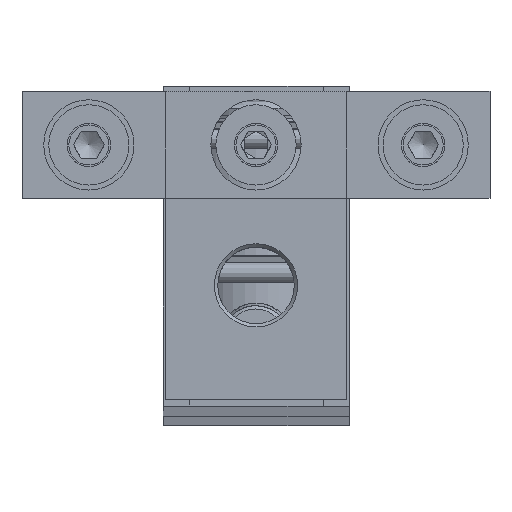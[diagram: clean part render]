
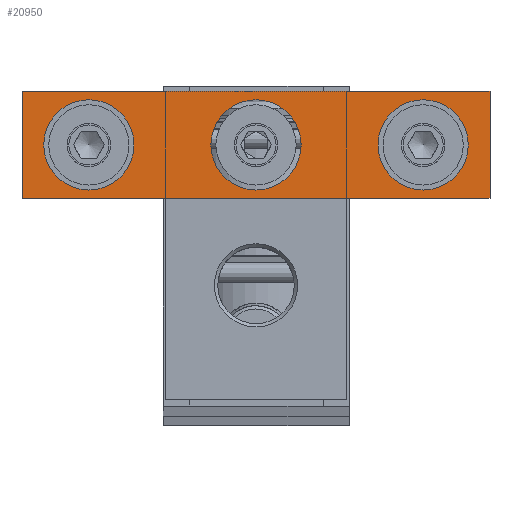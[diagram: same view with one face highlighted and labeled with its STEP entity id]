
A CAD part, top view. The second image highlights one B-rep face of the part: STEP entity #20950.
In plain terms, the highlighted planar face has unit normal (0, 0, 1).
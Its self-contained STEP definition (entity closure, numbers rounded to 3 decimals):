
#1397=LINE('',#40409,#2324);
#1430=LINE('',#40577,#2357);
#1433=LINE('',#40581,#2360);
#1435=LINE('',#40584,#2362);
#2324=VECTOR('',#28735,10.);
#2357=VECTOR('',#28906,10.);
#2360=VECTOR('',#28911,10.);
#2362=VECTOR('',#28915,10.);
#3207=FACE_BOUND('',#5437,.T.);
#3208=FACE_BOUND('',#5438,.T.);
#3209=FACE_BOUND('',#5439,.T.);
#4089=FACE_OUTER_BOUND('',#5436,.T.);
#5436=EDGE_LOOP('',(#17038,#17039,#17040,#17041));
#5437=EDGE_LOOP('',(#17042));
#5438=EDGE_LOOP('',(#17043));
#5439=EDGE_LOOP('',(#17044));
#7049=CIRCLE('',#23432,6.75);
#7051=CIRCLE('',#23436,6.75);
#7054=CIRCLE('',#23441,6.75);
#9045=VERTEX_POINT('',#40406);
#9046=VERTEX_POINT('',#40408);
#9089=VERTEX_POINT('',#40574);
#9090=VERTEX_POINT('',#40576);
#9093=VERTEX_POINT('',#40592);
#9095=VERTEX_POINT('',#40600);
#9098=VERTEX_POINT('',#40610);
#11788=EDGE_CURVE('',#9046,#9045,#1397,.T.);
#11863=EDGE_CURVE('',#9090,#9089,#1430,.T.);
#11866=EDGE_CURVE('',#9089,#9046,#1433,.T.);
#11868=EDGE_CURVE('',#9045,#9090,#1435,.T.);
#11872=EDGE_CURVE('',#9093,#9093,#7049,.T.);
#11876=EDGE_CURVE('',#9095,#9095,#7051,.T.);
#11881=EDGE_CURVE('',#9098,#9098,#7054,.T.);
#17038=ORIENTED_EDGE('',*,*,#11863,.T.);
#17039=ORIENTED_EDGE('',*,*,#11866,.T.);
#17040=ORIENTED_EDGE('',*,*,#11788,.T.);
#17041=ORIENTED_EDGE('',*,*,#11868,.T.);
#17042=ORIENTED_EDGE('',*,*,#11876,.F.);
#17043=ORIENTED_EDGE('',*,*,#11872,.F.);
#17044=ORIENTED_EDGE('',*,*,#11881,.F.);
#18832=PLANE('',#23440);
#20950=ADVANCED_FACE('',(#4089,#3207,#3208,#3209),#18832,.T.);
#23432=AXIS2_PLACEMENT_3D('',#40593,#28925,#28926);
#23436=AXIS2_PLACEMENT_3D('',#40601,#28935,#28936);
#23440=AXIS2_PLACEMENT_3D('',#40609,#28945,#28946);
#23441=AXIS2_PLACEMENT_3D('',#40611,#28947,#28948);
#28735=DIRECTION('',(-1.,0.,0.));
#28906=DIRECTION('',(1.,0.,0.));
#28911=DIRECTION('',(0.,1.,0.));
#28915=DIRECTION('',(0.,-1.,0.));
#28925=DIRECTION('center_axis',(0.,0.,
1.));
#28926=DIRECTION('ref_axis',(-1.,0.,0.));
#28935=DIRECTION('center_axis',(0.,0.,
1.));
#28936=DIRECTION('ref_axis',(-1.,0.,0.));
#28945=DIRECTION('center_axis',(0.,0.,
1.));
#28946=DIRECTION('ref_axis',(1.,0.,0.));
#28947=DIRECTION('center_axis',(0.,0.,
1.));
#28948=DIRECTION('ref_axis',(-1.,0.,0.));
#40406=CARTESIAN_POINT('',(-35.05,23.1,463.5));
#40408=CARTESIAN_POINT('',(34.95,23.1,463.5));
#40409=CARTESIAN_POINT('',(34.95,23.1,463.5));
#40574=CARTESIAN_POINT('',(34.95,7.1,463.5));
#40576=CARTESIAN_POINT('',(-35.05,7.1,463.5));
#40577=CARTESIAN_POINT('',(-35.05,7.1,463.5));
#40581=CARTESIAN_POINT('',(34.95,7.1,463.5));
#40584=CARTESIAN_POINT('',(-35.05,23.1,463.5));
#40592=CARTESIAN_POINT('',(-18.3,15.1,463.5));
#40593=CARTESIAN_POINT('Origin',(-25.05,15.1,463.5));
#40600=CARTESIAN_POINT('',(6.7,15.1,463.5));
#40601=CARTESIAN_POINT('Origin',(-0.05,15.1,463.5));
#40609=CARTESIAN_POINT('Origin',(-0.05,15.1,463.5));
#40610=CARTESIAN_POINT('',(31.7,15.1,463.5));
#40611=CARTESIAN_POINT('Origin',(24.95,15.1,463.5));
